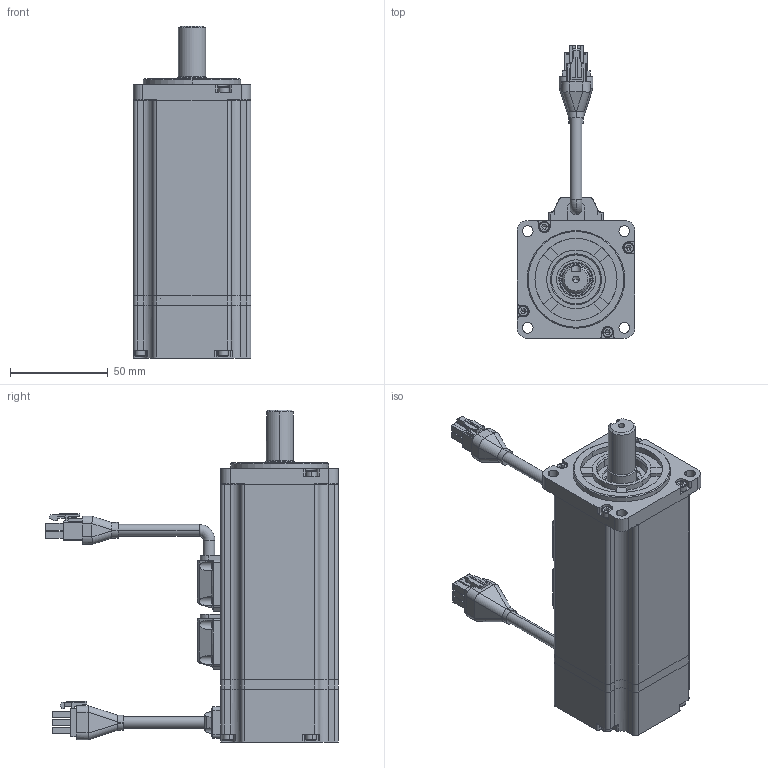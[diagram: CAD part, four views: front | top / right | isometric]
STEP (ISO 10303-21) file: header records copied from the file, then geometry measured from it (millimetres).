
FILE_DESCRIPTION (( 'STEP AP203' ), '1' );
FILE_NAME ('R60-400.STEP', '2019-08-23T07:16:33', ( '1' ), ( 'MideaGroup IT' ), 'SwSTEP 2.0', 'SolidWorks 2012', '' );
FILE_SCHEMA (( 'CONFIG_CONTROL_DESIGN' ));
Products named in the file (26): 綴傷裔-001; ヶ傷裔-001; 儂褲-001; R60-400; 雄薯盄揤裔郪璃; M3X28_GB_FASTENER_SCREWS_HSHCS M3X25-C; 雄薯盄傷赽裔; 雄薯盄; 雄薯盄傷赽; 雄薯盄躇猾菜; 雄薯盄揤裔; 毀嚏盄揤裔郪璃; 毀嚏盄傷赽揤裔; M2.5X5_GB_CROSS_SCREWS_TYPE3 M2.5X8-8-N; 晤鎢ん盄傷赽; 晤鎢ん盄揤裔躇猾; 晤鎢ん盄揤裔; 蛌赽郪璃-001; 6003; 6003_qiu; 6003_bq; 6003_nh; 6003_wq; 萇儂粣-001; 綴裔-001
Assembly tree (56 placements, depth 4):
  R60-400
    儂褲-001
    ヶ傷裔-001
    綴傷裔-001
    綴裔-001
    蛌赽郪璃-001
      萇儂粣-001
      6003
        6003_wq
        6003_nh
        6003_bq
        6003_qiu  x11
    毀嚏盄揤裔郪璃
      晤鎢ん盄揤裔
      晤鎢ん盄揤裔躇猾
      晤鎢ん盄傷赽
      M2.5X5_GB_CROSS_SCREWS_TYPE3 M2.5X8-8-N  x4
      毀嚏盄傷赽揤裔
    雄薯盄揤裔郪璃
      雄薯盄揤裔
      雄薯盄躇猾菜
      雄薯盄傷赽
      雄薯盄
      M2.5X5_GB_CROSS_SCREWS_TYPE3 M2.5X8-8-N  x4
      雄薯盄傷赽裔
    M3X28_GB_FASTENER_SCREWS_HSHCS M3X25-C  x8
    雄薯盄揤裔郪璃
      雄薯盄揤裔
      雄薯盄躇猾菜
      雄薯盄
      M2.5X5_GB_CROSS_SCREWS_TYPE3 M2.5X8-8-N  x4
Bounding box: 60.2 x 150 x 170 mm (x, y, z)
Volume: 164988.7 mm3; surface area: 116651.3 mm2
Topology: 56 solids, 82 shells, 1823 faces, 4936 edges, 3258 vertices
Faces by surface type: plane 904, cylinder 706, cone 89, torus 56, sphere 46, bspline 22
Entity records: 46500 total; most frequent: CARTESIAN_POINT 11885, DIRECTION 6584, ORIENTED_EDGE 6245, EDGE_CURVE 3303, AXIS2_PLACEMENT_3D 2331, VERTEX_POINT 2198, VECTOR 1922, LINE 1922
